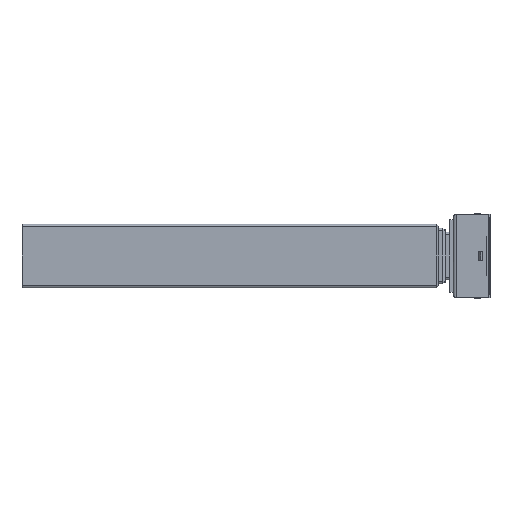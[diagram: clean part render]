
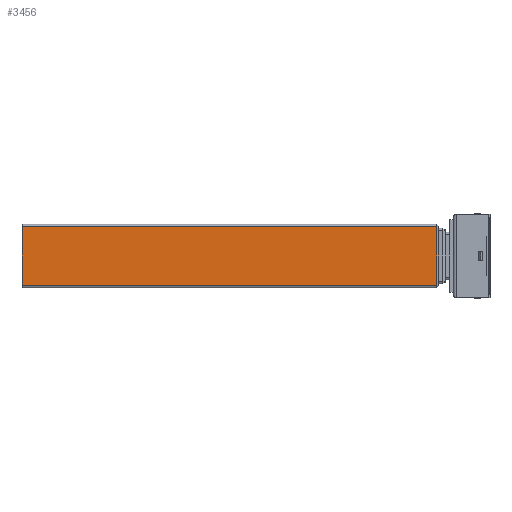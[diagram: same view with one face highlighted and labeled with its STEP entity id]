
A CAD part, left-side view. The second image highlights one B-rep face of the part: STEP entity #3456.
In plain terms, the highlighted planar face has unit normal (-1, 0, 0).
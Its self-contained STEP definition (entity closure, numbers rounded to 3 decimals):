
#240 = CARTESIAN_POINT ( 'NONE',  ( -30., 546.5, -37. ) ) ;
#820 = DIRECTION ( 'NONE',  ( 0., -1., 0. ) ) ;
#888 = CARTESIAN_POINT ( 'NONE',  ( -30., 546.5, -37. ) ) ;
#1709 = EDGE_CURVE ( 'NONE', #3479, #9333, #5702, .T. ) ;
#2166 = ORIENTED_EDGE ( 'NONE', *, *, #1709, .T. ) ;
#2351 = VECTOR ( 'NONE', #820, 1000. ) ;
#2487 = EDGE_LOOP ( 'NONE', ( #8272, #2166, #10615, #9167 ) ) ;
#2575 = VECTOR ( 'NONE', #9409, 1000. ) ;
#2862 = CARTESIAN_POINT ( 'NONE',  ( -30., 23.6, 37. ) ) ;
#3456 = ADVANCED_FACE ( 'NONE', ( #13259 ), #4807, .F. ) ;
#3479 = VERTEX_POINT ( 'NONE', #9017 ) ;
#4807 = PLANE ( 'NONE',  #11384 ) ;
#4826 = DIRECTION ( 'NONE',  ( 0., 0., 1. ) ) ;
#4938 = CARTESIAN_POINT ( 'NONE',  ( -30., 546.5, -37. ) ) ;
#5702 = LINE ( 'NONE', #6776, #6493 ) ;
#6128 = EDGE_CURVE ( 'NONE', #11290, #8340, #12216, .T. ) ;
#6493 = VECTOR ( 'NONE', #4826, 1000. ) ;
#6776 = CARTESIAN_POINT ( 'NONE',  ( -30., 23.6, 37. ) ) ;
#7469 = LINE ( 'NONE', #9882, #2351 ) ;
#7478 = CARTESIAN_POINT ( 'NONE',  ( -30., 546.5, 37. ) ) ;
#7835 = CARTESIAN_POINT ( 'NONE',  ( -30., 546.5, -37. ) ) ;
#8272 = ORIENTED_EDGE ( 'NONE', *, *, #11468, .T. ) ;
#8340 = VERTEX_POINT ( 'NONE', #7478 ) ;
#8888 = DIRECTION ( 'NONE',  ( 0., 0., -1. ) ) ;
#8932 = DIRECTION ( 'NONE',  ( 1., 0., 0. ) ) ;
#9017 = CARTESIAN_POINT ( 'NONE',  ( -30., 23.6, -37. ) ) ;
#9167 = ORIENTED_EDGE ( 'NONE', *, *, #6128, .F. ) ;
#9227 = DIRECTION ( 'NONE',  ( 0., 0., 1. ) ) ;
#9333 = VERTEX_POINT ( 'NONE', #2862 ) ;
#9409 = DIRECTION ( 'NONE',  ( 0., -1., 0. ) ) ;
#9882 = CARTESIAN_POINT ( 'NONE',  ( -30., 546.5, 37. ) ) ;
#10615 = ORIENTED_EDGE ( 'NONE', *, *, #13162, .F. ) ;
#11073 = VECTOR ( 'NONE', #9227, 1000. ) ;
#11290 = VERTEX_POINT ( 'NONE', #4938 ) ;
#11384 = AXIS2_PLACEMENT_3D ( 'NONE', #7835, #8932, #8888 ) ;
#11468 = EDGE_CURVE ( 'NONE', #11290, #3479, #11606, .T. ) ;
#11606 = LINE ( 'NONE', #240, #2575 ) ;
#12216 = LINE ( 'NONE', #888, #11073 ) ;
#13162 = EDGE_CURVE ( 'NONE', #8340, #9333, #7469, .T. ) ;
#13259 = FACE_OUTER_BOUND ( 'NONE', #2487, .T. ) ;
